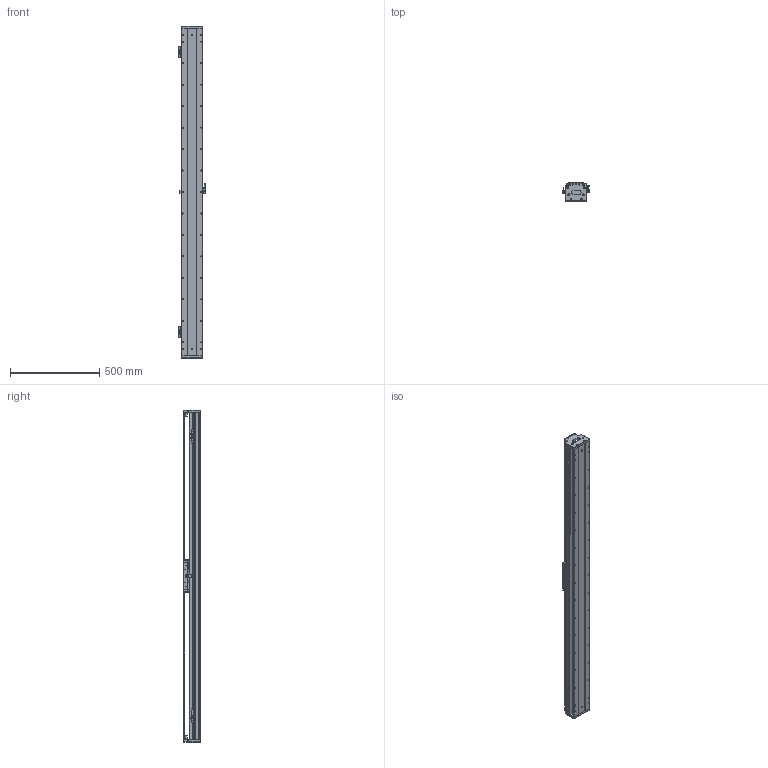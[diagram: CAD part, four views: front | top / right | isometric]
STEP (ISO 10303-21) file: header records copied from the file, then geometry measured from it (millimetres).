
FILE_DESCRIPTION (( 'STEP AP203' ), '1' );
FILE_NAME ('DKW119-C2-W060(T1560-L005-0.2).STEP', '2021-09-01T07:02:57', ( '微软用户' ), ( '微软中国' ), 'SwSTEP 2.0', 'SolidWorks 2018', '' );
FILE_SCHEMA (( 'CONFIG_CONTROL_DESIGN' ));
Length unit declared in the file: millimetre
Products named in the file (23): 砎蝶猾沭; MSB15-DG-U; RUS嫖掑喜; 12160-0000-003-00 DKW120詩湍嶺輸; DKW119-RU-DTJ-00 RU2黍杅芛盓殤; Ru2; 12160-0000-004-00  DKW120詩湍揤輸; 萇儂堤盄 ^DKW119-C2-W060(T1560-L005-0.2); RUS嫖掑郪璃; DKW119 单轴模组-拉钢带组件; CKMA01-W060-TRLxxx; CKM02-W060_00; pm-y65; DKW-HXJ-JY-00 遣喳砎蝶; DKW119-C2-W060(T1560-L005-0.2); 10980-0001-003-00 嫖萇羲壽嘐隅釱; 11062-0001-004-00 DKW119傷啣; 嫖萇羲壽蚾饜极; 06652-0001-004-00 DKW120嶺輸菜輸; 嫖萇羲壽蚾饜极A; 12018-0001-002-00 詩湍; 12018-0001-001-00 菁釱; DKW-SG-GYP-H-00 嫖萇覜茼え
Assembly tree (36 placements, depth 3):
  DKW119-C2-W060(T1560-L005-0.2)
    12018-0001-001-00 菁釱
    MSB15-DG-U  x2
    DKW119-RU-DTJ-00 RU2黍杅芛盓殤
    萇儂堤盄 ^DKW119-C2-W060(T1560-L005-0.2)
    CKMA01-W060-TRLxxx
    DKW119 单轴模组-拉钢带组件
      DKW-HXJ-JY-00 遣喳砎蝶  x4
      11062-0001-004-00 DKW119傷啣  x2
      06652-0001-004-00 DKW120嶺輸菜輸  x4
      12018-0001-002-00 詩湍
      砎蝶猾沭  x2
      12160-0000-003-00 DKW120詩湍嶺輸  x2
      12160-0000-004-00  DKW120詩湍揤輸  x2
    嫖萇羲壽蚾饜极
      pm-y65
      10980-0001-003-00 嫖萇羲壽嘐隅釱
    嫖萇羲壽蚾饜极A
      pm-y65  x2
      10980-0001-003-00 嫖萇羲壽嘐隅釱
    DKW-SG-GYP-H-00 嫖萇覜茼え
    RUS嫖掑郪璃
      RUS嫖掑喜
      Ru2
    CKM02-W060_00
Bounding box: 154.3 x 99 x 1856 mm (x, y, z)
Volume: 8027923.4 mm3; surface area: 2627922.5 mm2
Topology: 42 solids, 91 shells, 4258 faces, 11361 edges, 7248 vertices
Faces by surface type: plane 2126, cylinder 1475, cone 410, bspline 247
Entity records: 128788 total; most frequent: CARTESIAN_POINT 43287, ORIENTED_EDGE 17211, DIRECTION 16598, EDGE_CURVE 8646, VERTEX_POINT 5675, AXIS2_PLACEMENT_3D 5636, VECTOR 5326, LINE 5326
